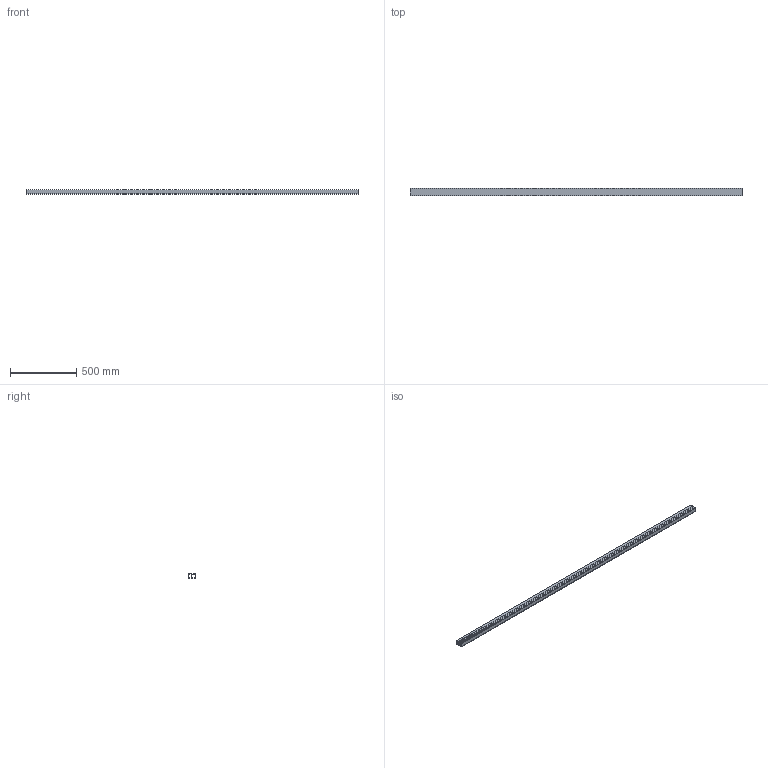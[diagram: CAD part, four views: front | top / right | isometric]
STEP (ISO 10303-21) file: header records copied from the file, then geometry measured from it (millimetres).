
FILE_DESCRIPTION(('STEP AP242'),'1');
FILE_NAME('OPO_65.081.32.stp','2026-01-30T20:50:05',(' '),(' '),'Spatial InterOp 3D',' ',' ');
FILE_SCHEMA(('AP242_MANAGED_MODEL_BASED_3D_ENGINEERING_MIM_LF {1 0 10303 442 1 1 4}'));
Length unit declared in the file: millimetre
Products named in the file (1): 1
Bounding box: 2500 x 53 x 33 mm (x, y, z)
Volume: 1114843.8 mm3; surface area: 919418.7 mm2
Topology: 1 solids, 1 shells, 88 faces, 244 edges, 162 vertices
Faces by surface type: plane 68, cylinder 20
Entity records: 3516 total; most frequent: CARTESIAN_POINT 495, ORIENTED_EDGE 488, DIRECTION 462, EDGE_CURVE 244, LINE 204, VECTOR 204, VERTEX_POINT 162, AXIS2_PLACEMENT_3D 129
